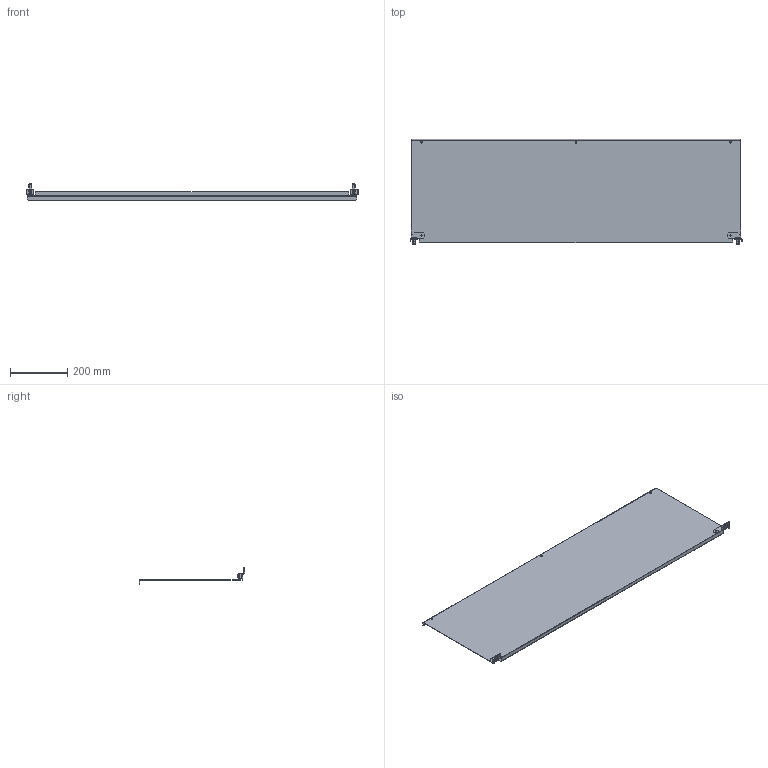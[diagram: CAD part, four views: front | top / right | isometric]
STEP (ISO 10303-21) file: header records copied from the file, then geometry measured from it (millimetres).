
FILE_DESCRIPTION(('CAx-IF Rec.Pracs.---Model Styling and Organization---1.2---2011-12-15','CAx-IF Rec.Pracs.---Geometric and Assembly Validation Properties---4.1---2014-06-16','CAx-IF Rec.Pracs.---PMI Polyline Presentation---2.0---2013-05-24'),'2;1');
FILE_NAME('R5RCB124.stp','2021-05-06T04:09:00+03:00',(''),(''),'STEP Interface 4.4 by CT CoreTechnologie','3D_Evolution4.4 by CT CoreTechnologie','');
FILE_SCHEMA(('AUTOMOTIVE_DESIGN { 1 0 10303 214 1 1 1 1 }'));
Length unit declared in the file: millimetre
Products named in the file (6): R5RCB124; RB.0546.00.00.0_-01; M6x16-DIN 7985 ISR_thread; AC00C485; RB.0546.00.00.0_-00; RB.1472.00.00.0_-00 400x1200
Assembly tree (7 placements, depth 2):
  R5RCB124
    RB.0546.00.00.0_-01
    M6x16-DIN 7985 ISR_thread  x2
    AC00C485  x2
    RB.0546.00.00.0_-00
    RB.1472.00.00.0_-00 400x1200
Bounding box: 1155 x 365.5 x 56.05 mm (x, y, z)
Surface area: 894487.4 mm2 (no closed solid volume)
Topology: 0 solids, 11 shells, 273 faces, 681 edges, 424 vertices
Faces by surface type: plane 141, cylinder 104, bspline 28
Entity records: 6135 total; most frequent: CARTESIAN_POINT 1443, DIRECTION 918, ORIENTED_EDGE 910, EDGE_CURVE 455, VECTOR 316, LINE 316, AXIS2_PLACEMENT_3D 301, VERTEX_POINT 290
